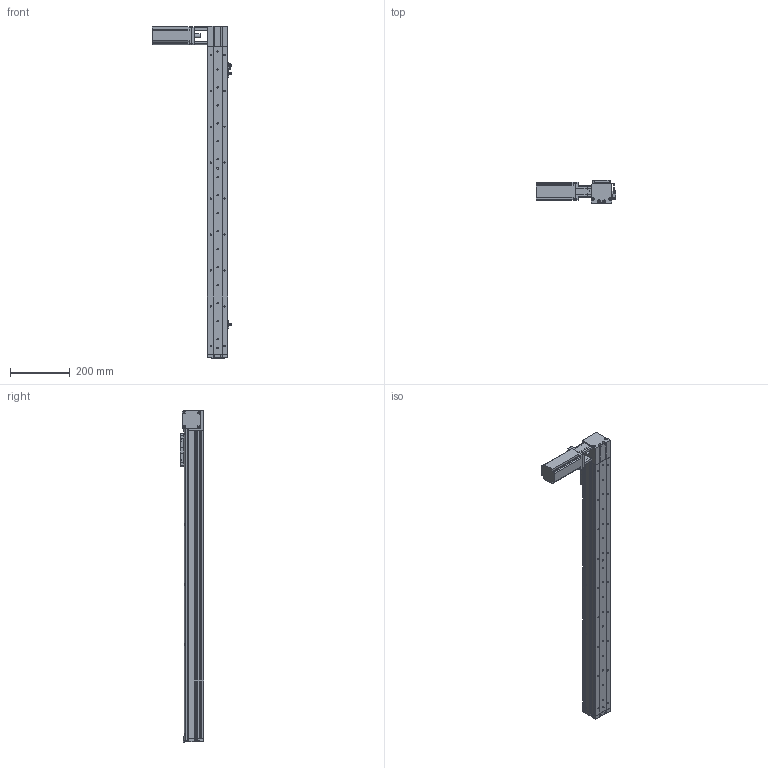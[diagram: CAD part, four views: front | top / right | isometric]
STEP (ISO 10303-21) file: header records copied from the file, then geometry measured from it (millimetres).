
FILE_DESCRIPTION (( 'STEP AP214' ), '1' );
FILE_NAME ('KSD68BS-S850-MLT-CR.STEP', '2019-11-08T05:21:25', ( '微软用户' ), ( '微软中国' ), 'SwSTEP 2.0', 'SolidWorks 2014', '' );
FILE_SCHEMA (( 'AUTOMOTIVE_DESIGN' ));
Length unit declared in the file: millimetre
Products named in the file (13): 100遵鎮湛假蚾啣1; KSD68BS 850行程盖板全封闭; 68遵裔啣揤啣1; 68宽单导轨全封闭丝杆传动安装板1防护罩; KSD68BS 850行程侧板全封闭; 68宽单导轨全封闭同步带端板; 68单导轨全封闭同步带电机座右; 68单导轨全封闭同步带安装板; 感应片68宽全封闭; U倰嫖萇EEㄜSX672; 台达ECMA－C20604AS伺服电机（400W); KSD68BS 850行程底板全封闭; KSD68BS-S850-MLT-CR
Assembly tree (16 placements, depth 2):
  KSD68BS-S850-MLT-CR
    KSD68BS 850行程底板全封闭
    台达ECMA－C20604AS伺服电机（400W)
    U倰嫖萇EEㄜSX672  x3
    感应片68宽全封闭
    68单导轨全封闭同步带安装板
    68单导轨全封闭同步带电机座右
    68宽单导轨全封闭同步带端板
    KSD68BS 850行程侧板全封闭  x2
    68宽单导轨全封闭丝杆传动安装板1防护罩
    68遵裔啣揤啣1  x2
    KSD68BS 850行程盖板全封闭
    100遵鎮湛假蚾啣1
Bounding box: 266.4 x 77 x 1108.1 mm (x, y, z)
Volume: 2283904.7 mm3; surface area: 838370.2 mm2
Topology: 17 solids, 17 shells, 1416 faces, 4028 edges, 2575 vertices
Faces by surface type: cylinder 660, plane 600, cone 156
Entity records: 44793 total; most frequent: CARTESIAN_POINT 7589, DIRECTION 6670, ORIENTED_EDGE 6384, EDGE_CURVE 3192, AXIS2_PLACEMENT_3D 2402, VERTEX_POINT 2093, VECTOR 1866, LINE 1866
